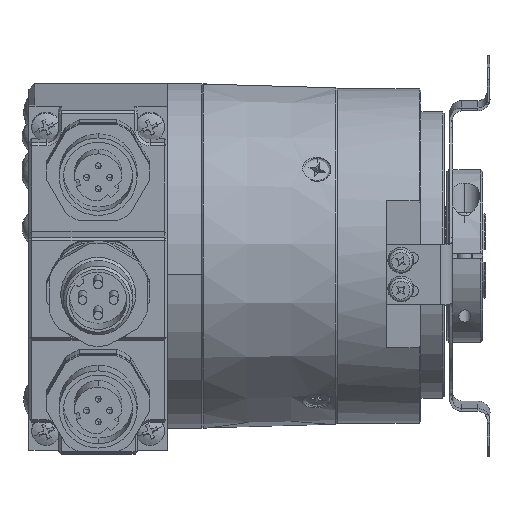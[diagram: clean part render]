
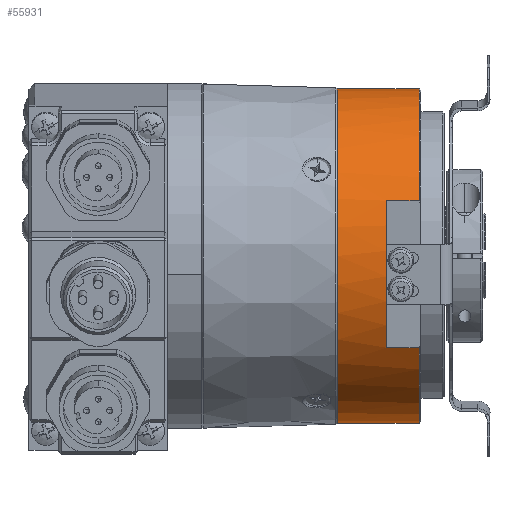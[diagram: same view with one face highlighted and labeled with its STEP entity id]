
A CAD part, front view. The second image highlights one B-rep face of the part: STEP entity #55931.
In plain terms, the highlighted cylindrical face has radius 29 mm (diameter 58 mm), a partial arc.
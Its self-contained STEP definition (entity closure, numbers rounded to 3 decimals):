
#22480 = CARTESIAN_POINT ( 'NONE',  ( 7.5, 0., -29. ) ) ;
#22482 = DIRECTION ( 'NONE',  ( -1., 0., 0. ) ) ;
#22483 = VECTOR ( 'NONE', #22482, 1000. ) ;
#22484 = CARTESIAN_POINT ( 'NONE',  ( -1.393, 0., -29. ) ) ;
#22485 = LINE ( 'NONE', #22484, #22483 ) ;
#22572 = CARTESIAN_POINT ( 'NONE',  ( 21.7, 0., 29. ) ) ;
#22575 = DIRECTION ( 'NONE',  ( -1., 0., 0. ) ) ;
#22577 = VECTOR ( 'NONE', #22575, 1000. ) ;
#22579 = CARTESIAN_POINT ( 'NONE',  ( -1.393, 0., 29. ) ) ;
#22580 = LINE ( 'NONE', #22579, #22577 ) ;
#22582 = CARTESIAN_POINT ( 'NONE',  ( 7.5, 0., 29. ) ) ;
#23028 = CARTESIAN_POINT ( 'NONE',  ( 21.7, 0., -29. ) ) ;
#24864 = CARTESIAN_POINT ( 'NONE',  ( 21.7, -24.241, -15.918 ) ) ;
#24949 = DIRECTION ( 'NONE',  ( 1., 0., 0. ) ) ;
#24950 = VECTOR ( 'NONE', #24949, 1000. ) ;
#24951 = CARTESIAN_POINT ( 'NONE',  ( -1.393, -27.372, 9.581 ) ) ;
#24958 = LINE ( 'NONE', #24951, #24950 ) ;
#24993 = CARTESIAN_POINT ( 'NONE',  ( 16., -24.241, -15.918 ) ) ;
#25000 = CARTESIAN_POINT ( 'NONE',  ( 16., -27.372, 9.581 ) ) ;
#25021 = DIRECTION ( 'NONE',  ( -1., 0., 0. ) ) ;
#25022 = VECTOR ( 'NONE', #25021, 1000. ) ;
#25023 = CARTESIAN_POINT ( 'NONE',  ( -1.393, -24.241, -15.918 ) ) ;
#25028 = LINE ( 'NONE', #25023, #25022 ) ;
#26576 = FACE_OUTER_BOUND ( 'NONE', #55932, .T. ) ;
#26600 = DIRECTION ( 'NONE',  ( 0., 0., 1. ) ) ;
#26601 = DIRECTION ( 'NONE',  ( -1., 0., 0. ) ) ;
#26602 = CARTESIAN_POINT ( 'NONE',  ( 21.7, 0., 0. ) ) ;
#26603 = AXIS2_PLACEMENT_3D ( 'NONE', #26602, #26601, #26600 ) ;
#26604 = DIRECTION ( 'NONE',  ( 0., 0., 1. ) ) ;
#26605 = DIRECTION ( 'NONE',  ( -1., 0., 0. ) ) ;
#26606 = AXIS2_PLACEMENT_3D ( 'NONE', #26609, #26605, #26604 ) ;
#26607 = CYLINDRICAL_SURFACE ( 'NONE', #26606, 29. ) ;
#26608 = CIRCLE ( 'NONE', #26603, 29. ) ;
#26609 = CARTESIAN_POINT ( 'NONE',  ( -1.393, 0., 0. ) ) ;
#26743 = DIRECTION ( 'NONE',  ( 0., -1., 0. ) ) ;
#26744 = DIRECTION ( 'NONE',  ( -1., 0., 0. ) ) ;
#26745 = CARTESIAN_POINT ( 'NONE',  ( 16., 0., 0. ) ) ;
#26746 = AXIS2_PLACEMENT_3D ( 'NONE', #26745, #26744, #26743 ) ;
#26748 = CIRCLE ( 'NONE', #26746, 29. ) ;
#26812 = DIRECTION ( 'NONE',  ( 0., 0., 1. ) ) ;
#26813 = DIRECTION ( 'NONE',  ( -1., 0., 0. ) ) ;
#26814 = AXIS2_PLACEMENT_3D ( 'NONE', #26820, #26813, #26812 ) ;
#26815 = CIRCLE ( 'NONE', #26814, 29. ) ;
#26820 = CARTESIAN_POINT ( 'NONE',  ( 7.5, 0., 0. ) ) ;
#36607 = CARTESIAN_POINT ( 'NONE',  ( 21.7, -27.372, 9.581 ) ) ;
#42991 = DIRECTION ( 'NONE',  ( 0., 0., 1. ) ) ;
#42992 = DIRECTION ( 'NONE',  ( -1., 0., 0. ) ) ;
#42993 = CARTESIAN_POINT ( 'NONE',  ( 21.7, 0., 0. ) ) ;
#42994 = AXIS2_PLACEMENT_3D ( 'NONE', #42993, #42992, #42991 ) ;
#42996 = CIRCLE ( 'NONE', #42994, 29. ) ;
#49776 = VERTEX_POINT ( 'NONE', #36607 ) ;
#51435 = EDGE_CURVE ( 'NONE', #49776, #54259, #42996, .T. ) ;
#54252 = EDGE_CURVE ( 'NONE', #54334, #54253, #22485, .T. ) ;
#54253 = VERTEX_POINT ( 'NONE', #22480 ) ;
#54256 = VERTEX_POINT ( 'NONE', #22582 ) ;
#54258 = EDGE_CURVE ( 'NONE', #54259, #54256, #22580, .T. ) ;
#54259 = VERTEX_POINT ( 'NONE', #22572 ) ;
#54334 = VERTEX_POINT ( 'NONE', #23028 ) ;
#54827 = VERTEX_POINT ( 'NONE', #24864 ) ;
#54889 = EDGE_CURVE ( 'NONE', #54895, #49776, #24958, .T. ) ;
#54895 = VERTEX_POINT ( 'NONE', #25000 ) ;
#54909 = VERTEX_POINT ( 'NONE', #24993 ) ;
#54917 = EDGE_CURVE ( 'NONE', #54827, #54909, #25028, .T. ) ;
#55931 = ADVANCED_FACE ( 'NONE', ( #26576 ), #26607, .T. ) ;
#55932 = EDGE_LOOP ( 'NONE', ( #55933, #55934, #55994, #55995, #55997, #55998, #55999, #56000 ) ) ;
#55933 = ORIENTED_EDGE ( 'NONE', *, *, #54252, .F. ) ;
#55934 = ORIENTED_EDGE ( 'NONE', *, *, #55935, .T. ) ;
#55935 = EDGE_CURVE ( 'NONE', #54334, #54827, #26608, .T. ) ;
#55994 = ORIENTED_EDGE ( 'NONE', *, *, #54917, .T. ) ;
#55995 = ORIENTED_EDGE ( 'NONE', *, *, #55996, .T. ) ;
#55996 = EDGE_CURVE ( 'NONE', #54909, #54895, #26748, .T. ) ;
#55997 = ORIENTED_EDGE ( 'NONE', *, *, #54889, .T. ) ;
#55998 = ORIENTED_EDGE ( 'NONE', *, *, #51435, .T. ) ;
#55999 = ORIENTED_EDGE ( 'NONE', *, *, #54258, .T. ) ;
#56000 = ORIENTED_EDGE ( 'NONE', *, *, #56012, .F. ) ;
#56012 = EDGE_CURVE ( 'NONE', #54253, #54256, #26815, .T. ) ;
